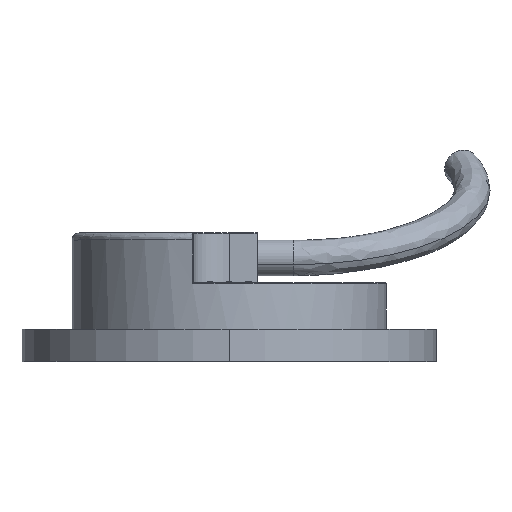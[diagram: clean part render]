
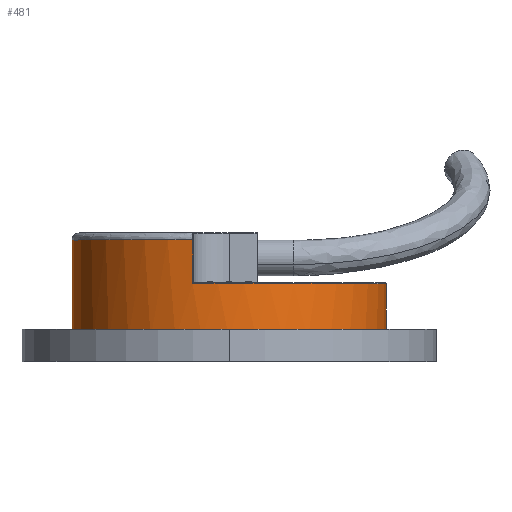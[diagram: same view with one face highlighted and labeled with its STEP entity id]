
A CAD part, top view. The second image highlights one B-rep face of the part: STEP entity #481.
In plain terms, the highlighted cylindrical face has radius 22 mm (diameter 44 mm), a partial arc.
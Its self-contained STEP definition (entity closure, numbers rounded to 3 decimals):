
#383 = CYLINDRICAL_SURFACE ( 'NONE', #9440, 22. ) ;
#481 = ADVANCED_FACE ( 'NONE', ( #9103 ), #383, .T. ) ;
#530 = DIRECTION ( 'NONE',  ( 1., 0., 0. ) ) ;
#704 = VERTEX_POINT ( 'NONE', #8480 ) ;
#775 = VECTOR ( 'NONE', #4132, 1000. ) ;
#1002 = VECTOR ( 'NONE', #7929, 1000. ) ;
#1163 = LINE ( 'NONE', #5760, #775 ) ;
#1177 = CARTESIAN_POINT ( 'NONE',  ( 17.513, 1.063, 2.223 ) ) ;
#1199 = CARTESIAN_POINT ( 'NONE',  ( -9.61, 8.863, 23.618 ) ) ;
#1484 = DIRECTION ( 'NONE',  ( 1., 0., 0. ) ) ;
#1687 = ORIENTED_EDGE ( 'NONE', *, *, #7283, .T. ) ;
#2297 = CARTESIAN_POINT ( 'NONE',  ( -4.487, 1.063, 2.223 ) ) ;
#2322 = ORIENTED_EDGE ( 'NONE', *, *, #4125, .T. ) ;
#2381 = CARTESIAN_POINT ( 'NONE',  ( -4.487, 8.863, 2.223 ) ) ;
#2427 = AXIS2_PLACEMENT_3D ( 'NONE', #2297, #9833, #8180 ) ;
#2765 = AXIS2_PLACEMENT_3D ( 'NONE', #7329, #8047, #8194 ) ;
#2875 = DIRECTION ( 'NONE',  ( 0., -1., 0. ) ) ;
#3197 = DIRECTION ( 'NONE',  ( 0., -1., 0. ) ) ;
#3261 = VERTEX_POINT ( 'NONE', #10743 ) ;
#3465 = CIRCLE ( 'NONE', #6545, 22. ) ;
#3994 = CARTESIAN_POINT ( 'NONE',  ( -4.487, 15.963, 2.223 ) ) ;
#4024 = VERTEX_POINT ( 'NONE', #6407 ) ;
#4125 = EDGE_CURVE ( 'NONE', #3261, #704, #1163, .T. ) ;
#4132 = DIRECTION ( 'NONE',  ( 0., -1., 0. ) ) ;
#4728 = CIRCLE ( 'NONE', #2427, 22. ) ;
#5760 = CARTESIAN_POINT ( 'NONE',  ( -26.487, 15.963, 2.223 ) ) ;
#6128 = ORIENTED_EDGE ( 'NONE', *, *, #7094, .T. ) ;
#6225 = CARTESIAN_POINT ( 'NONE',  ( -9.61, 15.963, 23.618 ) ) ;
#6407 = CARTESIAN_POINT ( 'NONE',  ( -9.61, 14.963, 23.618 ) ) ;
#6439 = EDGE_CURVE ( 'NONE', #4024, #3261, #8552, .T. ) ;
#6545 = AXIS2_PLACEMENT_3D ( 'NONE', #2381, #3197, #1484 ) ;
#7094 = EDGE_CURVE ( 'NONE', #704, #7651, #4728, .T. ) ;
#7171 = VECTOR ( 'NONE', #2875, 1000. ) ;
#7283 = EDGE_CURVE ( 'NONE', #8111, #4024, #8267, .T. ) ;
#7301 = LINE ( 'NONE', #8775, #7171 ) ;
#7329 = CARTESIAN_POINT ( 'NONE',  ( -4.487, 14.963, 2.223 ) ) ;
#7651 = VERTEX_POINT ( 'NONE', #1177 ) ;
#7929 = DIRECTION ( 'NONE',  ( 0., 1., 0. ) ) ;
#8047 = DIRECTION ( 'NONE',  ( 0., -1., 0. ) ) ;
#8111 = VERTEX_POINT ( 'NONE', #1199 ) ;
#8148 = EDGE_LOOP ( 'NONE', ( #8468, #2322, #6128, #10526, #8895, #1687 ) ) ;
#8180 = DIRECTION ( 'NONE',  ( 1., 0., 0. ) ) ;
#8194 = DIRECTION ( 'NONE',  ( 1., 0., 0. ) ) ;
#8267 = LINE ( 'NONE', #6225, #1002 ) ;
#8284 = VERTEX_POINT ( 'NONE', #9965 ) ;
#8468 = ORIENTED_EDGE ( 'NONE', *, *, #6439, .T. ) ;
#8480 = CARTESIAN_POINT ( 'NONE',  ( -26.487, 1.063, 2.223 ) ) ;
#8552 = CIRCLE ( 'NONE', #2765, 22. ) ;
#8706 = EDGE_CURVE ( 'NONE', #8284, #7651, #7301, .T. ) ;
#8775 = CARTESIAN_POINT ( 'NONE',  ( 17.513, 15.963, 2.223 ) ) ;
#8895 = ORIENTED_EDGE ( 'NONE', *, *, #9905, .T. ) ;
#9103 = FACE_OUTER_BOUND ( 'NONE', #8148, .T. ) ;
#9440 = AXIS2_PLACEMENT_3D ( 'NONE', #3994, #9876, #530 ) ;
#9833 = DIRECTION ( 'NONE',  ( 0., 1., 0. ) ) ;
#9876 = DIRECTION ( 'NONE',  ( 0., -1., 0. ) ) ;
#9905 = EDGE_CURVE ( 'NONE', #8284, #8111, #3465, .T. ) ;
#9965 = CARTESIAN_POINT ( 'NONE',  ( 17.513, 8.863, 2.223 ) ) ;
#10526 = ORIENTED_EDGE ( 'NONE', *, *, #8706, .F. ) ;
#10743 = CARTESIAN_POINT ( 'NONE',  ( -26.487, 14.963, 2.223 ) ) ;
